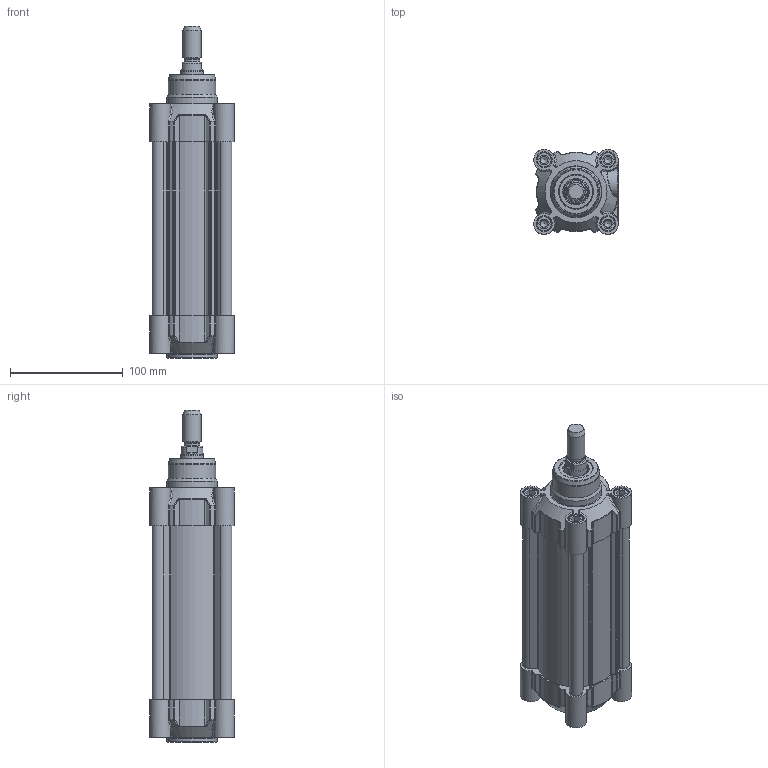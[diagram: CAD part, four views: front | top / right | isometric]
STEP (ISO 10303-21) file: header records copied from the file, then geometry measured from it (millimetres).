
FILE_DESCRIPTION(/* description */ ('CILINDRO D.E. MAGNETICO AMMORTIZZATO ISO 15552'),/* implementation_level */ '2;1');
FILE_NAME(/* name */ 'T:\Archivio Inventor\- 00 NUOVI STP PER SITO CON STELO CHE SI MUOVE\SERIE H - U\SERIE HDM\HDM063 - TUBO NUOVO\HDM063.100.GS.M.stp',/* time_stamp */ '2018-07-30T14:34:17+02:00',/* author */ ('carlo.corazza'),/* organization */ (''),/* preprocessor_version */ 'ST-DEVELOPER v16.5',/* originating_system */ 'Autodesk Inventor 2017',/* authorisation */ '');
FILE_SCHEMA (('AUTOMOTIVE_DESIGN { 1 0 10303 214 3 1 1 }'));
Length unit declared in the file: millimetre
Products named in the file (5): HDM063.100.GS.M; TP; TA; STELO-100; CORPO-100
Assembly tree (4 placements, depth 2):
  HDM063.100.GS.M
    TP
    TA
    STELO-100
    CORPO-100
Bounding box: 75 x 75 x 294 mm (x, y, z)
Volume: 495573.9 mm3; surface area: 211924.7 mm2
Topology: 4 solids, 27 shells, 1241 faces, 2936 edges, 1818 vertices
Faces by surface type: plane 368, cylinder 297, bspline 288, torus 108, cone 106, sphere 74
Full cylindrical faces by diameter (mm): 3 x2, 3.4 x2, 4.8 x2, 5.25 x2, 6.647 x8, 8 x8, 8.3 x12, 9.8 x4, 9.9 x2, 10 x6, 12 x3, 13 x8, 13.3 x8, 13.5 x1, 14.95 x2, 16 x1, 19.5 x1, 20 x1, 20.8 x1, 20.847 x1, 24 x1, 26 x2, 30 x3, 42 x1, 45 x2, 63 x1
Entity records: 40768 total; most frequent: CARTESIAN_POINT 13071, ORIENTED_EDGE 5326, DIRECTION 5100, EDGE_CURVE 2663, AXIS2_PLACEMENT_3D 2037, VERTEX_POINT 1763, EDGE_LOOP 1576, STYLED_ITEM 1245
